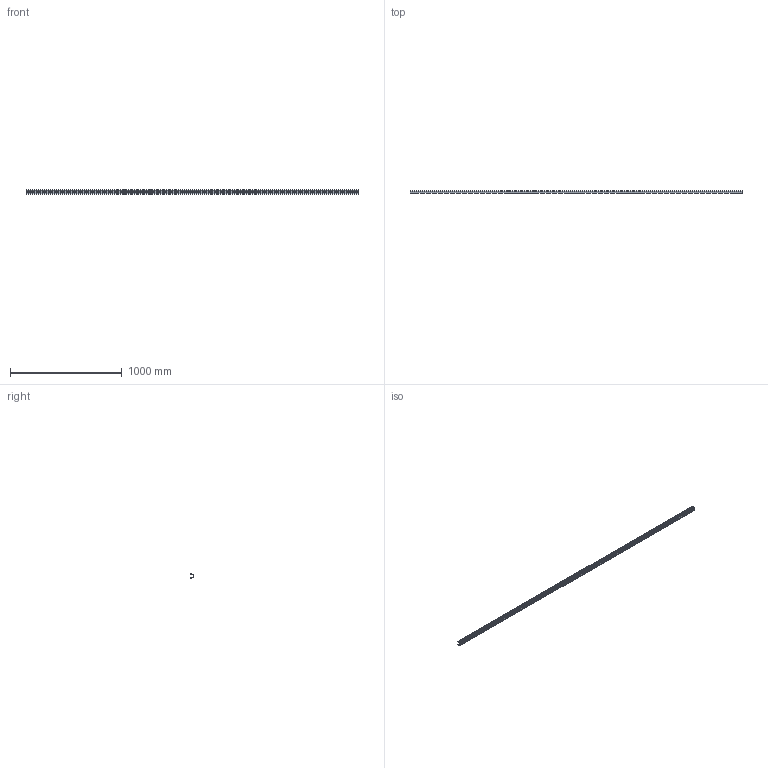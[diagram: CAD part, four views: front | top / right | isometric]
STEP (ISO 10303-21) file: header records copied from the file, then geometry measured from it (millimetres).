
FILE_DESCRIPTION( ( 'STEP AP203' ), '1' );
FILE_NAME( 'C:/Temp/Ganter_Step_05_03_2020/data/3_8/gn_646_3/Carrier profile GN 646.3-2970-B (15).stp', '2020-03-12T15:24:33', ( 'License CC BY-ND 4.0' ), ( 'CADENAS' ), ' ', 'PARTsolutions', ' ' );
FILE_SCHEMA( ( 'CONFIG_CONTROL_DESIGN' ) );
Length unit declared in the file: millimetre
Products named in the file (1): _Carrier profile GN 646.3-2970-B (15)
Bounding box: 2970 x 26.5 x 36 mm (x, y, z)
Volume: 489730.1 mm3; surface area: 618647.5 mm2
Topology: 1 solids, 1 shells, 552 faces, 1650 edges, 1100 vertices
Faces by surface type: plane 290, cylinder 262
Entity records: 19182 total; most frequent: CARTESIAN_POINT 3303, ORIENTED_EDGE 3300, DIRECTION 3280, EDGE_CURVE 1650, LINE 1126, VECTOR 1126, VERTEX_POINT 1100, AXIS2_PLACEMENT_3D 1077
